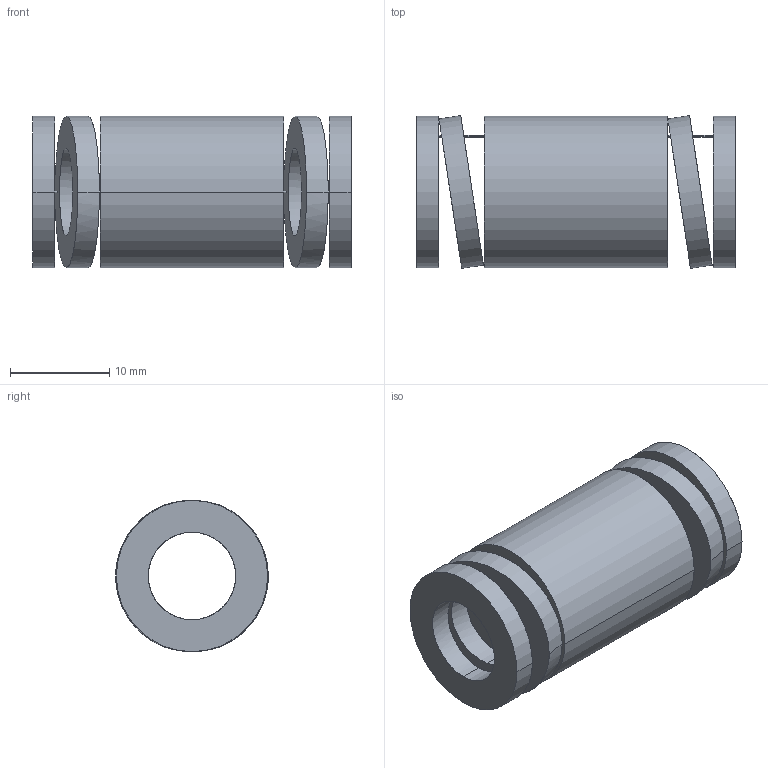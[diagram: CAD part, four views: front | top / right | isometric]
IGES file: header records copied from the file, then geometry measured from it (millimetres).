
Start section: START RECORD GO HERE.
Global section: file name: 392-B16-032.igs; native system: DASSAULT SYSTEMES CATIA V5 R20 - www.3ds.com; preprocessor: CATIA Version 5 Release 20 ; author: Utente; organization: NB04-ASUS; date: 20210812.160856; units: millimetre
Bounding box: 32 x 15.36 x 15.2 mm (x, y, z)
Surface area: 3258.6 mm2 (no closed solid volume)
Topology: 0 solids, 0 shells, 38 faces, 184 edges, 184 vertices
Faces by surface type: revolution 28, plane 10
